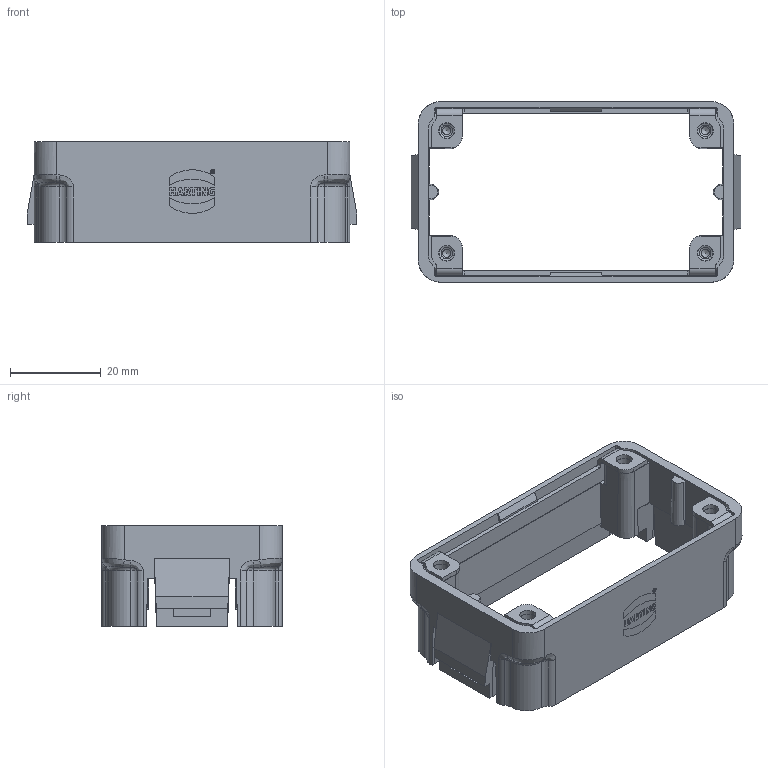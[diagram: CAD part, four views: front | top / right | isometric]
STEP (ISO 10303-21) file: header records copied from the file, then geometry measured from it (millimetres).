
FILE_DESCRIPTION(/* description */ (''),/* implementation_level */ '2;1');
FILE_NAME(/* name */ '100820457ugm000_a.stp',/* time_stamp */ '2022-03-12T09:11:13+01:00',/* author */ (''),/* organization */ (''),/* preprocessor_version */ 'ST-DEVELOPER v16.7',/* originating_system */ 'SIEMENS PLM Software NX 1911',/* authorisation */ '');
FILE_SCHEMA (('AUTOMOTIVE_DESIGN { 1 0 10303 214 3 1 1 1 }'));
Length unit declared in the file: millimetre
Products named in the file (1): 100820457ugm000_a
Bounding box: 72.6 x 39.8 x 22.25 mm (x, y, z)
Volume: 13418.9 mm3; surface area: 12639.1 mm2
Topology: 1 solids, 1 shells, 416 faces, 2562 edges, 3022 vertices
Faces by surface type: plane 234, cylinder 92, bspline 44, cone 42, torus 4
Full cylindrical faces by diameter (mm): 1.8 x4, 2.5 x4, 3.4 x4, 3.5 x4
Entity records: 28660 total; most frequent: CARTESIAN_POINT 9041, ORIENTED_EDGE 3434, DIRECTION 2418, EDGE_CURVE 1717, VERTEX_POINT 1409, B_SPLINE_CURVE_WITH_KNOTS 1140, LINE 1100, VECTOR 1100
